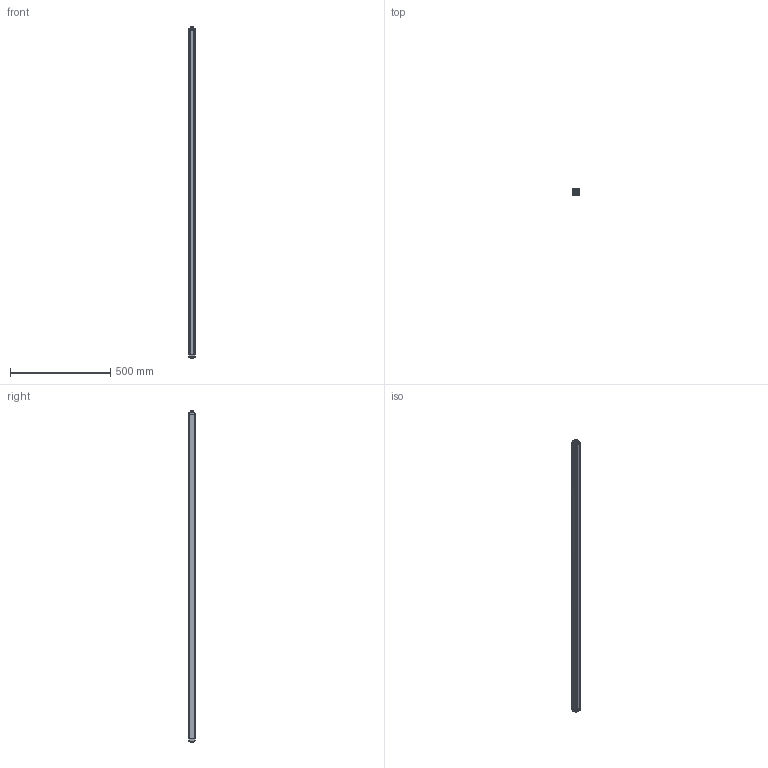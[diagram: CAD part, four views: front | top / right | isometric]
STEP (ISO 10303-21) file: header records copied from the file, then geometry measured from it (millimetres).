
FILE_DESCRIPTION(/* description */ (''),/* implementation_level */ '2;1');
FILE_NAME(/* name */ 'TYG20-80.stp',/* time_stamp */ '2024-11-14T13:22:19+08:00',/* author */ (''),/* organization */ (''),/* preprocessor_version */ 'ST-DEVELOPER v16',/* originating_system */ 'SIEMENS PLM Software NX 11.0',/* authorisation */ '');
FILE_SCHEMA (('AUTOMOTIVE_DESIGN { 1 0 10303 214 3 1 1 1 }'));
Length unit declared in the file: millimetre
Products named in the file (5): YAKELI8080; B-08238181; K-08238282; 202303318383; TYG20-70_stp
Assembly tree (4 placements, depth 2):
  TYG20-70_stp
    202303318383
    K-08238282
    B-08238181
    YAKELI8080
Bounding box: 31.87 x 33.07 x 1658 mm (x, y, z)
Volume: 551448.3 mm3; surface area: 575699 mm2
Topology: 4 solids, 4 shells, 629 faces, 1887 edges, 1256 vertices
Faces by surface type: plane 346, cylinder 203, cone 36, sphere 16, torus 16, extrusion 8, bspline 4
Entity records: 21926 total; most frequent: CARTESIAN_POINT 4524, ORIENTED_EDGE 3758, DIRECTION 3553, EDGE_CURVE 1879, VERTEX_POINT 1256, AXIS2_PLACEMENT_3D 1188, VECTOR 1177, LINE 1169
